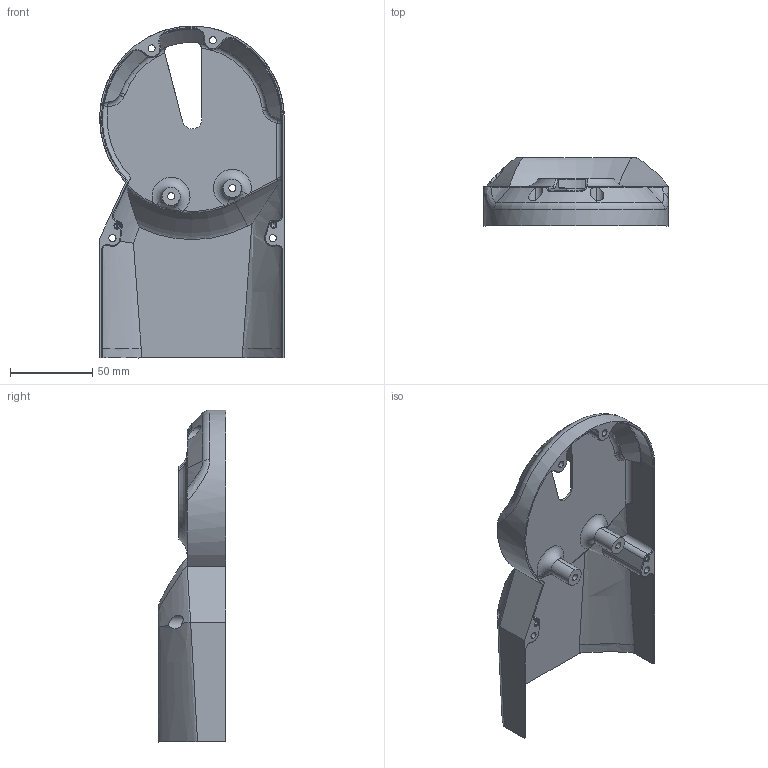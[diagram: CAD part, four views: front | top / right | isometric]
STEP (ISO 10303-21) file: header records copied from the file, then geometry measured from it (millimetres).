
FILE_DESCRIPTION((''),'2;1');
FILE_NAME('KD-D-202L_UPPERTHIGH_IDLE_1','2025-07-12T15:39:46',('Administrator'),(''),'CREO PARAMETRIC BY PTC INC, 2022073','CREO PARAMETRIC BY PTC INC, 2022073','');
FILE_SCHEMA(('CONFIG_CONTROL_DESIGN'));
Length unit declared in the file: millimetre
Products named in the file (1): KD-D-202L_UPPERTHIGH_IDLE_1
Bounding box: 112 x 41.25 x 201.5 mm (x, y, z)
Volume: 71429.8 mm3; surface area: 69418.9 mm2
Topology: 1 solids, 1 shells, 209 faces, 593 edges, 381 vertices
Faces by surface type: cylinder 69, cone 44, plane 38, bspline 27, torus 21, extrusion 4, sphere 4, revolution 2
Entity records: 9178 total; most frequent: CARTESIAN_POINT 3837, ORIENTED_EDGE 1170, DIRECTION 1082, EDGE_CURVE 585, AXIS2_PLACEMENT_3D 445, VERTEX_POINT 381, CIRCLE 269, EDGE_LOOP 226
